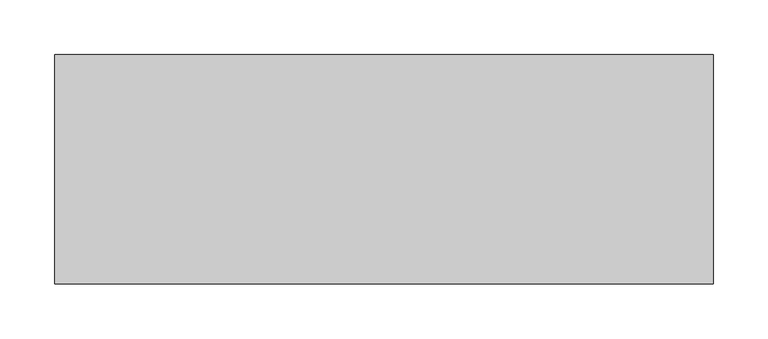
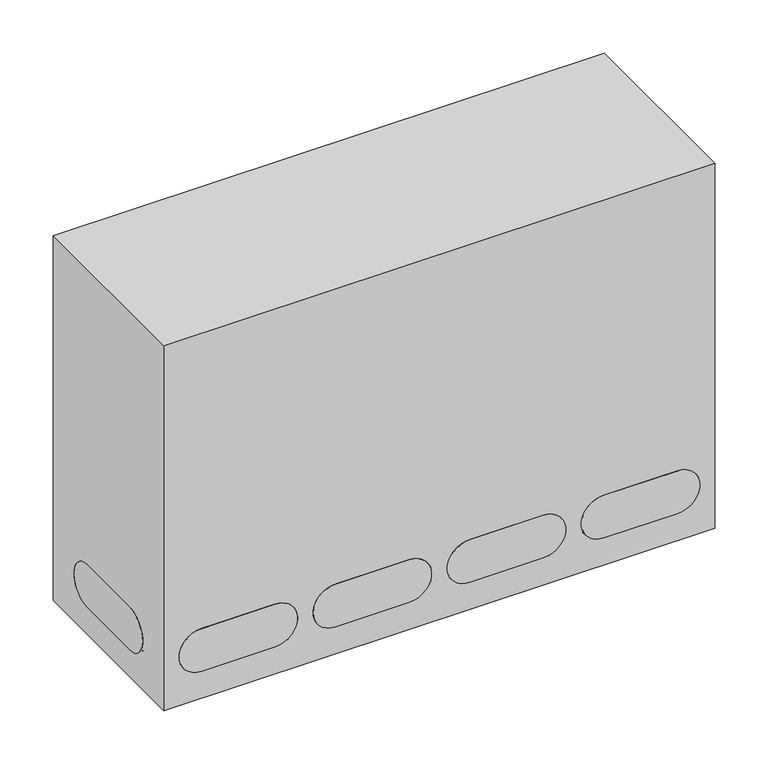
"""IFC4 building model written with IfcOpenShell, lengths in millimetres: duct fitting geometry, NLRS_57_DUF_UN_air distribution manifold oval #14_M&G : 350#14 XL - DN150 (H=420)."""

from ifc_helpers import new_model, si_unit, point, frame, frame_2d, origin, origin_with_axes, place, context, project, spatial, polyline, circle_curve, trimmed, segment, composite_curve, outline, extrude, source, transform, mapped, element, save
from ifc_brep_helpers import plane_surface, revolved_surface, advanced_brep


def duct_fitting_69f5a1d6(model_context):
    return source(origin(), model_context, "Body", "SolidModel", [
        extrude(outline(composite_curve([segment(trimmed(circle_curve(frame_2d((-179.0, 40.0)), 24.5), [point((-179.0, 64.5))], [point((-179.0, 15.5))], False, "CARTESIAN"), True, "CONTINUOUS"), segment(polyline([(-179.0, 15.5), (-259.0, 15.5)]), True, "CONTINUOUS"), segment(trimmed(circle_curve(frame_2d((-259.0, 40.0)), 24.5), [point((-259.0, 15.5))], [point((-259.0, 64.5))], False, "CARTESIAN"), True, "CONTINUOUS"), segment(polyline([(-259.0, 64.5), (-179.0, 64.5)]), True, "CONTINUOUS")], self_intersect=False)), origin_with_axes(), (0.0, 0.0, 1.0), 5.0),
        extrude(outline(composite_curve([segment(trimmed(circle_curve(frame_2d((-179.0, -40.0)), 24.5), [point((-179.0, -15.5))], [point((-179.0, -64.5))], False, "CARTESIAN"), True, "CONTINUOUS"), segment(polyline([(-179.0, -64.5), (-259.0, -64.5)]), True, "CONTINUOUS"), segment(trimmed(circle_curve(frame_2d((-259.0, -40.0)), 24.5), [point((-259.0, -64.5))], [point((-259.0, -15.5))], False, "CARTESIAN"), True, "CONTINUOUS"), segment(polyline([(-259.0, -15.5), (-179.0, -15.5)]), True, "CONTINUOUS")], self_intersect=False)), origin_with_axes(), (0.0, 0.0, 1.0), 5.0),
        extrude(outline(composite_curve([segment(trimmed(circle_curve(frame_2d((-33.0, 40.0)), 24.5), [point((-33.0, 64.5))], [point((-33.0, 15.5))], False, "CARTESIAN"), True, "CONTINUOUS"), segment(polyline([(-33.0, 15.5), (-113.0, 15.5)]), True, "CONTINUOUS"), segment(trimmed(circle_curve(frame_2d((-113.0, 40.0)), 24.5), [point((-113.0, 15.5))], [point((-113.0, 64.5))], False, "CARTESIAN"), True, "CONTINUOUS"), segment(polyline([(-113.0, 64.5), (-33.0, 64.5)]), True, "CONTINUOUS")], self_intersect=False)), origin_with_axes(), (0.0, 0.0, 1.0), 5.0),
        extrude(outline(composite_curve([segment(trimmed(circle_curve(frame_2d((-33.0, -40.0)), 24.5), [point((-33.0, -15.5))], [point((-33.0, -64.5))], False, "CARTESIAN"), True, "CONTINUOUS"), segment(polyline([(-33.0, -64.5), (-113.0, -64.5)]), True, "CONTINUOUS"), segment(trimmed(circle_curve(frame_2d((-113.0, -40.0)), 24.5), [point((-113.0, -64.5))], [point((-113.0, -15.5))], False, "CARTESIAN"), True, "CONTINUOUS"), segment(polyline([(-113.0, -15.5), (-33.0, -15.5)]), True, "CONTINUOUS")], self_intersect=False)), origin_with_axes(), (0.0, 0.0, 1.0), 5.0),
        extrude(outline(composite_curve([segment(trimmed(circle_curve(frame_2d((113.0, 40.0)), 24.5), [point((113.0, 64.5))], [point((113.0, 15.5))], False, "CARTESIAN"), True, "CONTINUOUS"), segment(polyline([(113.0, 15.5), (33.0, 15.5)]), True, "CONTINUOUS"), segment(trimmed(circle_curve(frame_2d((33.0, 40.0)), 24.5), [point((33.0, 15.5))], [point((33.0, 64.5))], False, "CARTESIAN"), True, "CONTINUOUS"), segment(polyline([(33.0, 64.5), (113.0, 64.5)]), True, "CONTINUOUS")], self_intersect=False)), origin_with_axes(), (0.0, 0.0, 1.0), 5.0),
        extrude(outline(composite_curve([segment(trimmed(circle_curve(frame_2d((113.0, -40.0)), 24.5), [point((113.0, -15.5))], [point((113.0, -64.5))], False, "CARTESIAN"), True, "CONTINUOUS"), segment(polyline([(113.0, -64.5), (33.0, -64.5)]), True, "CONTINUOUS"), segment(trimmed(circle_curve(frame_2d((33.0, -40.0)), 24.5), [point((33.0, -64.5))], [point((33.0, -15.5))], False, "CARTESIAN"), True, "CONTINUOUS"), segment(polyline([(33.0, -15.5), (113.0, -15.5)]), True, "CONTINUOUS")], self_intersect=False)), origin_with_axes(), (0.0, 0.0, 1.0), 5.0),
        extrude(outline(composite_curve([segment(trimmed(circle_curve(frame_2d((259.0, 40.0)), 24.5), [point((259.0, 64.5))], [point((259.0, 15.5))], False, "CARTESIAN"), True, "CONTINUOUS"), segment(polyline([(259.0, 15.5), (179.0, 15.5)]), True, "CONTINUOUS"), segment(trimmed(circle_curve(frame_2d((179.0, 40.0)), 24.5), [point((179.0, 15.5))], [point((179.0, 64.5))], False, "CARTESIAN"), True, "CONTINUOUS"), segment(polyline([(179.0, 64.5), (259.0, 64.5)]), True, "CONTINUOUS")], self_intersect=False)), origin_with_axes(), (0.0, 0.0, 1.0), 5.0),
        extrude(outline(composite_curve([segment(trimmed(circle_curve(frame_2d((259.0, -40.0)), 24.5), [point((259.0, -15.5))], [point((259.0, -64.5))], False, "CARTESIAN"), True, "CONTINUOUS"), segment(polyline([(259.0, -64.5), (179.0, -64.5)]), True, "CONTINUOUS"), segment(trimmed(circle_curve(frame_2d((179.0, -40.0)), 24.5), [point((179.0, -64.5))], [point((179.0, -15.5))], False, "CARTESIAN"), True, "CONTINUOUS"), segment(polyline([(179.0, -15.5), (259.0, -15.5)]), True, "CONTINUOUS")], self_intersect=False)), origin_with_axes(), (0.0, 0.0, 1.0), 5.0),
        extrude(outline(composite_curve([segment(polyline([(-40.0, 80.0), (40.0, 80.0)]), True, "CONTINUOUS"), segment(trimmed(circle_curve(frame_2d((40.0, 55.5)), 24.5), [point((40.0, 80.0))], [point((40.0, 31.0))], False, "CARTESIAN"), True, "CONTINUOUS"), segment(polyline([(40.0, 31.0), (-40.0, 31.0)]), True, "CONTINUOUS"), segment(trimmed(circle_curve(frame_2d((-40.0, 55.5)), 24.5), [point((-40.0, 31.0))], [point((-40.0, 80.0))], False, "CARTESIAN"), True, "CONTINUOUS")], self_intersect=False)), frame((-300.0, 0.0, 0.0), z_axis=(1.0, 0.0, 0.0), x_axis=(0.0, 1.0, 0.0)), (0.0, 0.0, 1.0), 5.0),
        extrude(outline(composite_curve([segment(polyline([(80.0, -179.0), (80.0, -259.0)]), True, "CONTINUOUS"), segment(trimmed(circle_curve(frame_2d((55.5, -259.0)), 24.5), [point((80.0, -259.0))], [point((31.0, -259.0))], False, "CARTESIAN"), True, "CONTINUOUS"), segment(polyline([(31.0, -259.0), (31.0, -179.0)]), True, "CONTINUOUS"), segment(trimmed(circle_curve(frame_2d((55.5, -179.0)), 24.5), [point((31.0, -179.0))], [point((80.0, -179.0))], False, "CARTESIAN"), True, "CONTINUOUS")], self_intersect=False)), frame((0.0, -104.5, 0.0), z_axis=(0.0, 1.0, 0.0), x_axis=(0.0, 0.0, 1.0)), (0.0, 0.0, 1.0), 5.0),
        extrude(outline(composite_curve([segment(polyline([(80.0, -33.0), (80.0, -113.0)]), True, "CONTINUOUS"), segment(trimmed(circle_curve(frame_2d((55.5, -113.0)), 24.5), [point((80.0, -113.0))], [point((31.0, -113.0))], False, "CARTESIAN"), True, "CONTINUOUS"), segment(polyline([(31.0, -113.0), (31.0, -33.0)]), True, "CONTINUOUS"), segment(trimmed(circle_curve(frame_2d((55.5, -33.0)), 24.5), [point((31.0, -33.0))], [point((80.0, -33.0))], False, "CARTESIAN"), True, "CONTINUOUS")], self_intersect=False)), frame((0.0, -104.5, 0.0), z_axis=(0.0, 1.0, 0.0), x_axis=(0.0, 0.0, 1.0)), (0.0, 0.0, 1.0), 5.0),
        extrude(outline(composite_curve([segment(polyline([(80.0, 113.0), (80.0, 33.0)]), True, "CONTINUOUS"), segment(trimmed(circle_curve(frame_2d((55.5, 33.0)), 24.5), [point((80.0, 33.0))], [point((31.0, 33.0))], False, "CARTESIAN"), True, "CONTINUOUS"), segment(polyline([(31.0, 33.0), (31.0, 113.0)]), True, "CONTINUOUS"), segment(trimmed(circle_curve(frame_2d((55.5, 113.0)), 24.5), [point((31.0, 113.0))], [point((80.0, 113.0))], False, "CARTESIAN"), True, "CONTINUOUS")], self_intersect=False)), frame((0.0, -104.5, 0.0), z_axis=(0.0, 1.0, 0.0), x_axis=(0.0, 0.0, 1.0)), (0.0, 0.0, 1.0), 5.0),
        extrude(outline(composite_curve([segment(polyline([(80.0, 259.0), (80.0, 179.0)]), True, "CONTINUOUS"), segment(trimmed(circle_curve(frame_2d((55.5, 179.0)), 24.5), [point((80.0, 179.0))], [point((31.0, 179.0))], False, "CARTESIAN"), True, "CONTINUOUS"), segment(polyline([(31.0, 179.0), (31.0, 259.0)]), True, "CONTINUOUS"), segment(trimmed(circle_curve(frame_2d((55.5, 259.0)), 24.5), [point((31.0, 259.0))], [point((80.0, 259.0))], False, "CARTESIAN"), True, "CONTINUOUS")], self_intersect=False)), frame((0.0, -104.5, 0.0), z_axis=(0.0, 1.0, 0.0), x_axis=(0.0, 0.0, 1.0)), (0.0, 0.0, 1.0), 5.0),
        extrude(outline(composite_curve([segment(polyline([(-40.0, 80.0), (40.0, 80.0)]), True, "CONTINUOUS"), segment(trimmed(circle_curve(frame_2d((40.0, 55.5)), 24.5), [point((40.0, 80.0))], [point((40.0, 31.0))], False, "CARTESIAN"), True, "CONTINUOUS"), segment(polyline([(40.0, 31.0), (-40.0, 31.0)]), True, "CONTINUOUS"), segment(trimmed(circle_curve(frame_2d((-40.0, 55.5)), 24.5), [point((-40.0, 31.0))], [point((-40.0, 80.0))], False, "CARTESIAN"), True, "CONTINUOUS")], self_intersect=False)), frame((295.0, 0.0, 0.0), z_axis=(1.0, 0.0, 0.0), x_axis=(0.0, 1.0, 0.0)), (0.0, 0.0, 1.0), 5.0),
        advanced_brep(
        [(300.0, 104.5, 420.0), (-300.0, 104.5, 420.0), (-300.0, -104.5, 420.0), (300.0, -104.5, 420.0), (300.0, 104.5, 0.0), (300.0, -104.5, 0.0), (-300.0, -104.5, 0.0), (-300.0, 104.5, 0.0), (-179.0, 64.5, 0.0), (-259.0, 64.5, 0.0), (-259.0, 15.5, 0.0), (-179.0, 15.5, 0.0), (-179.0, -15.5, 0.0), (-259.0, -15.5, 0.0), (-259.0, -64.5, 0.0), (-179.0, -64.5, 0.0), (-33.0, 64.5, 0.0), (-113.0, 64.5, 0.0), (-113.0, 15.5, 0.0), (-33.0, 15.5, 0.0), (-33.0, -15.5, 0.0), (-113.0, -15.5, 0.0), (-113.0, -64.5, 0.0), (-33.0, -64.5, 0.0), (113.0, 64.5, 0.0), (33.0, 64.5, 0.0), (33.0, 15.5, 0.0), (113.0, 15.5, 0.0), (113.0, -15.5, 0.0), (33.0, -15.5, 0.0), (33.0, -64.5, 0.0), (113.0, -64.5, 0.0), (259.0, 64.5, 0.0), (179.0, 64.5, 0.0), (179.0, 15.5, 0.0), (259.0, 15.5, 0.0), (259.0, -15.5, 0.0), (179.0, -15.5, 0.0), (179.0, -64.5, 0.0), (259.0, -64.5, 0.0), (-300.0, 40.0, 80.0), (-300.0, -40.0, 80.0), (-300.0, -40.0, 31.0), (-300.0, 40.0, 31.0), (-259.0, -104.5, 80.0), (-179.0, -104.5, 80.0), (-179.0, -104.5, 31.0), (-259.0, -104.5, 31.0), (-113.0, -104.5, 80.0), (-33.0, -104.5, 80.0), (-33.0, -104.5, 31.0), (-113.0, -104.5, 31.0), (33.0, -104.5, 80.0), (113.0, -104.5, 80.0), (113.0, -104.5, 31.0), (33.0, -104.5, 31.0), (179.0, -104.5, 80.0), (259.0, -104.5, 80.0), (259.0, -104.5, 31.0), (179.0, -104.5, 31.0), (300.0, -40.0, 80.0), (300.0, 40.0, 80.0), (300.0, 40.0, 31.0), (300.0, -40.0, 31.0), (-179.0, 64.5, 5.0), (-179.0, 15.5, 5.0), (-259.0, 15.5, 5.0), (-259.0, 64.5, 5.0), (-179.0, -15.5, 5.0), (-179.0, -64.5, 5.0), (-259.0, -64.5, 5.0), (-259.0, -15.5, 5.0), (-33.0, 64.5, 5.0), (-33.0, 15.5, 5.0), (-113.0, 15.5, 5.0), (-113.0, 64.5, 5.0), (-33.0, -15.5, 5.0), (-33.0, -64.5, 5.0), (-113.0, -64.5, 5.0), (-113.0, -15.5, 5.0), (113.0, 64.5, 5.0), (113.0, 15.5, 5.0), (33.0, 15.5, 5.0), (33.0, 64.5, 5.0), (113.0, -15.5, 5.0), (113.0, -64.5, 5.0), (33.0, -64.5, 5.0), (33.0, -15.5, 5.0), (259.0, 64.5, 5.0), (259.0, 15.5, 5.0), (179.0, 15.5, 5.0), (179.0, 64.5, 5.0), (259.0, -15.5, 5.0), (259.0, -64.5, 5.0), (179.0, -64.5, 5.0), (179.0, -15.5, 5.0), (-179.0, -99.5, 80.0), (-259.0, -99.5, 80.0), (-259.0, -99.5, 31.0), (-179.0, -99.5, 31.0), (-33.0, -99.5, 80.0), (-113.0, -99.5, 80.0), (-113.0, -99.5, 31.0), (-33.0, -99.5, 31.0), (113.0, -99.5, 80.0), (33.0, -99.5, 80.0), (33.0, -99.5, 31.0), (113.0, -99.5, 31.0), (259.0, -99.5, 80.0), (179.0, -99.5, 80.0), (179.0, -99.5, 31.0), (259.0, -99.5, 31.0), (294.0, -40.0, 80.0), (294.0, -40.0, 31.0), (294.0, 40.0, 31.0), (294.0, 40.0, 80.0), (-294.0, -40.0, 80.0), (-294.0, 40.0, 80.0), (-294.0, 40.0, 31.0), (-294.0, -40.0, 31.0)],
        [
            (0, 1),
            (1, 2),
            (2, 3),
            (3, 0),
            (4, 5),
            (5, 6),
            (6, 7),
            (7, 4),
            (8, 9),
            (9, 10, circle_curve(frame((-259.0, 40.0, 0.0), z_axis=(0.0, 0.0, 1.0), x_axis=(1.0, 0.0, 0.0)), 24.5)),
            (10, 11),
            (11, 8, circle_curve(frame((-179.0, 40.0, 0.0), z_axis=(0.0, 0.0, 1.0), x_axis=(1.0, 0.0, 0.0)), 24.5)),
            (12, 13),
            (13, 14, circle_curve(frame((-259.0, -40.0, 0.0), z_axis=(0.0, 0.0, 1.0), x_axis=(1.0, 0.0, 0.0)), 24.5)),
            (14, 15),
            (15, 12, circle_curve(frame((-179.0, -40.0, 0.0), z_axis=(0.0, 0.0, 1.0), x_axis=(1.0, 0.0, 0.0)), 24.5)),
            (16, 17),
            (17, 18, circle_curve(frame((-113.0, 40.0, 0.0), z_axis=(0.0, 0.0, 1.0), x_axis=(1.0, 0.0, 0.0)), 24.5)),
            (18, 19),
            (19, 16, circle_curve(frame((-33.0, 40.0, 0.0), z_axis=(0.0, 0.0, 1.0), x_axis=(1.0, 0.0, 0.0)), 24.5)),
            (20, 21),
            (21, 22, circle_curve(frame((-113.0, -40.0, 0.0), z_axis=(0.0, 0.0, 1.0), x_axis=(1.0, 0.0, 0.0)), 24.5)),
            (22, 23),
            (23, 20, circle_curve(frame((-33.0, -40.0, 0.0), z_axis=(0.0, 0.0, 1.0), x_axis=(1.0, 0.0, 0.0)), 24.5)),
            (24, 25),
            (25, 26, circle_curve(frame((33.0, 40.0, 0.0), z_axis=(0.0, 0.0, 1.0), x_axis=(1.0, 0.0, 0.0)), 24.5)),
            (26, 27),
            (27, 24, circle_curve(frame((113.0, 40.0, 0.0), z_axis=(0.0, 0.0, 1.0), x_axis=(1.0, 0.0, 0.0)), 24.5)),
            (28, 29),
            (29, 30, circle_curve(frame((33.0, -40.0, 0.0), z_axis=(0.0, 0.0, 1.0), x_axis=(1.0, 0.0, 0.0)), 24.5)),
            (30, 31),
            (31, 28, circle_curve(frame((113.0, -40.0, 0.0), z_axis=(0.0, 0.0, 1.0), x_axis=(1.0, 0.0, 0.0)), 24.5)),
            (32, 33),
            (33, 34, circle_curve(frame((179.0, 40.0, 0.0), z_axis=(0.0, 0.0, 1.0), x_axis=(1.0, 0.0, 0.0)), 24.5)),
            (34, 35),
            (35, 32, circle_curve(frame((259.0, 40.0, 0.0), z_axis=(0.0, 0.0, 1.0), x_axis=(1.0, 0.0, 0.0)), 24.5)),
            (36, 37),
            (37, 38, circle_curve(frame((179.0, -40.0, 0.0), z_axis=(0.0, 0.0, 1.0), x_axis=(1.0, 0.0, 0.0)), 24.5)),
            (38, 39),
            (39, 36, circle_curve(frame((259.0, -40.0, 0.0), z_axis=(0.0, 0.0, 1.0), x_axis=(1.0, 0.0, 0.0)), 24.5)),
            (0, 4),
            (7, 1),
            (6, 2),
            (40, 41),
            (41, 42, circle_curve(frame((-300.0, -40.0, 55.5), z_axis=(1.0, 0.0, 0.0), x_axis=(0.0, 1.0, 0.0)), 24.5)),
            (42, 43),
            (43, 40, circle_curve(frame((-300.0, 40.0, 55.5), z_axis=(1.0, 0.0, 0.0), x_axis=(0.0, 1.0, 0.0)), 24.5)),
            (5, 3),
            (44, 45),
            (45, 46, circle_curve(frame((-179.0, -104.5, 55.5), z_axis=(0.0, 1.0, 0.0), x_axis=(-1.0, 0.0, 0.0)), 24.5)),
            (46, 47),
            (47, 44, circle_curve(frame((-259.0, -104.5, 55.5), z_axis=(0.0, 1.0, 0.0), x_axis=(-1.0, 0.0, 0.0)), 24.5)),
            (48, 49),
            (49, 50, circle_curve(frame((-33.0, -104.5, 55.5), z_axis=(0.0, 1.0, 0.0), x_axis=(-1.0, 0.0, 0.0)), 24.5)),
            (50, 51),
            (51, 48, circle_curve(frame((-113.0, -104.5, 55.5), z_axis=(0.0, 1.0, 0.0), x_axis=(-1.0, 0.0, 0.0)), 24.5)),
            (52, 53),
            (53, 54, circle_curve(frame((113.0, -104.5, 55.5), z_axis=(0.0, 1.0, 0.0), x_axis=(-1.0, 0.0, 0.0)), 24.5)),
            (54, 55),
            (55, 52, circle_curve(frame((33.0, -104.5, 55.5), z_axis=(0.0, 1.0, 0.0), x_axis=(-1.0, 0.0, 0.0)), 24.5)),
            (56, 57),
            (57, 58, circle_curve(frame((259.0, -104.5, 55.5), z_axis=(0.0, 1.0, 0.0), x_axis=(-1.0, 0.0, 0.0)), 24.5)),
            (58, 59),
            (59, 56, circle_curve(frame((179.0, -104.5, 55.5), z_axis=(0.0, 1.0, 0.0), x_axis=(-1.0, 0.0, 0.0)), 24.5)),
            (60, 61),
            (61, 62, circle_curve(frame((300.0, 40.0, 55.5), z_axis=(-1.0, 0.0, 0.0), x_axis=(0.0, -1.0, 0.0)), 24.5)),
            (62, 63),
            (63, 60, circle_curve(frame((300.0, -40.0, 55.5), z_axis=(-1.0, 0.0, 0.0), x_axis=(0.0, -1.0, 0.0)), 24.5)),
            (64, 65, circle_curve(frame((-179.0, 40.0, 5.0), z_axis=(0.0, 0.0, -1.0), x_axis=(1.0, 0.0, 0.0)), 24.5)),
            (65, 66),
            (66, 67, circle_curve(frame((-259.0, 40.0, 5.0), z_axis=(0.0, 0.0, -1.0), x_axis=(1.0, 0.0, 0.0)), 24.5)),
            (67, 64),
            (68, 69, circle_curve(frame((-179.0, -40.0, 5.0), z_axis=(0.0, 0.0, -1.0), x_axis=(1.0, 0.0, 0.0)), 24.5)),
            (69, 70),
            (70, 71, circle_curve(frame((-259.0, -40.0, 5.0), z_axis=(0.0, 0.0, -1.0), x_axis=(1.0, 0.0, 0.0)), 24.5)),
            (71, 68),
            (72, 73, circle_curve(frame((-33.0, 40.0, 5.0), z_axis=(0.0, 0.0, -1.0), x_axis=(1.0, 0.0, 0.0)), 24.5)),
            (73, 74),
            (74, 75, circle_curve(frame((-113.0, 40.0, 5.0), z_axis=(0.0, 0.0, -1.0), x_axis=(1.0, 0.0, 0.0)), 24.5)),
            (75, 72),
            (76, 77, circle_curve(frame((-33.0, -40.0, 5.0), z_axis=(0.0, 0.0, -1.0), x_axis=(1.0, 0.0, 0.0)), 24.5)),
            (77, 78),
            (78, 79, circle_curve(frame((-113.0, -40.0, 5.0), z_axis=(0.0, 0.0, -1.0), x_axis=(1.0, 0.0, 0.0)), 24.5)),
            (79, 76),
            (80, 81, circle_curve(frame((113.0, 40.0, 5.0), z_axis=(0.0, 0.0, -1.0), x_axis=(1.0, 0.0, 0.0)), 24.5)),
            (81, 82),
            (82, 83, circle_curve(frame((33.0, 40.0, 5.0), z_axis=(0.0, 0.0, -1.0), x_axis=(1.0, 0.0, 0.0)), 24.5)),
            (83, 80),
            (84, 85, circle_curve(frame((113.0, -40.0, 5.0), z_axis=(0.0, 0.0, -1.0), x_axis=(1.0, 0.0, 0.0)), 24.5)),
            (85, 86),
            (86, 87, circle_curve(frame((33.0, -40.0, 5.0), z_axis=(0.0, 0.0, -1.0), x_axis=(1.0, 0.0, 0.0)), 24.5)),
            (87, 84),
            (88, 89, circle_curve(frame((259.0, 40.0, 5.0), z_axis=(0.0, 0.0, -1.0), x_axis=(1.0, 0.0, 0.0)), 24.5)),
            (89, 90),
            (90, 91, circle_curve(frame((179.0, 40.0, 5.0), z_axis=(0.0, 0.0, -1.0), x_axis=(1.0, 0.0, 0.0)), 24.5)),
            (91, 88),
            (92, 93, circle_curve(frame((259.0, -40.0, 5.0), z_axis=(0.0, 0.0, -1.0), x_axis=(1.0, 0.0, 0.0)), 24.5)),
            (93, 94),
            (94, 95, circle_curve(frame((179.0, -40.0, 5.0), z_axis=(0.0, 0.0, -1.0), x_axis=(1.0, 0.0, 0.0)), 24.5)),
            (95, 92),
            (67, 9),
            (8, 64),
            (66, 10),
            (65, 11),
            (71, 13),
            (12, 68),
            (70, 14),
            (69, 15),
            (75, 17),
            (16, 72),
            (74, 18),
            (73, 19),
            (79, 21),
            (20, 76),
            (78, 22),
            (77, 23),
            (83, 25),
            (24, 80),
            (82, 26),
            (81, 27),
            (87, 29),
            (28, 84),
            (86, 30),
            (85, 31),
            (91, 33),
            (32, 88),
            (90, 34),
            (89, 35),
            (95, 37),
            (36, 92),
            (94, 38),
            (93, 39),
            (96, 97),
            (97, 98, circle_curve(frame((-259.0, -99.5, 55.5), z_axis=(0.0, -1.0, 0.0), x_axis=(-1.0, 0.0, 0.0)), 24.5)),
            (98, 99),
            (99, 96, circle_curve(frame((-179.0, -99.5, 55.5), z_axis=(0.0, -1.0, 0.0), x_axis=(-1.0, 0.0, 0.0)), 24.5)),
            (100, 101),
            (101, 102, circle_curve(frame((-113.0, -99.5, 55.5), z_axis=(0.0, -1.0, 0.0), x_axis=(-1.0, 0.0, 0.0)), 24.5)),
            (102, 103),
            (103, 100, circle_curve(frame((-33.0, -99.5, 55.5), z_axis=(0.0, -1.0, 0.0), x_axis=(-1.0, 0.0, 0.0)), 24.5)),
            (104, 105),
            (105, 106, circle_curve(frame((33.0, -99.5, 55.5), z_axis=(0.0, -1.0, 0.0), x_axis=(-1.0, 0.0, 0.0)), 24.5)),
            (106, 107),
            (107, 104, circle_curve(frame((113.0, -99.5, 55.5), z_axis=(0.0, -1.0, 0.0), x_axis=(-1.0, 0.0, 0.0)), 24.5)),
            (108, 109),
            (109, 110, circle_curve(frame((179.0, -99.5, 55.5), z_axis=(0.0, -1.0, 0.0), x_axis=(-1.0, 0.0, 0.0)), 24.5)),
            (110, 111),
            (111, 108, circle_curve(frame((259.0, -99.5, 55.5), z_axis=(0.0, -1.0, 0.0), x_axis=(-1.0, 0.0, 0.0)), 24.5)),
            (96, 45),
            (44, 97),
            (47, 98),
            (46, 99),
            (100, 49),
            (48, 101),
            (51, 102),
            (50, 103),
            (104, 53),
            (52, 105),
            (55, 106),
            (54, 107),
            (108, 57),
            (56, 109),
            (59, 110),
            (58, 111),
            (112, 113, circle_curve(frame((294.0, -40.0, 55.5), z_axis=(1.0, 0.0, 0.0), x_axis=(0.0, -1.0, 0.0)), 24.5)),
            (113, 114),
            (114, 115, circle_curve(frame((294.0, 40.0, 55.5), z_axis=(1.0, 0.0, 0.0), x_axis=(0.0, -1.0, 0.0)), 24.5)),
            (115, 112),
            (115, 61),
            (60, 112),
            (114, 62),
            (113, 63),
            (116, 117),
            (117, 118, circle_curve(frame((-294.0, 40.0, 55.5), z_axis=(-1.0, 0.0, 0.0), x_axis=(0.0, 1.0, 0.0)), 24.5)),
            (118, 119),
            (119, 116, circle_curve(frame((-294.0, -40.0, 55.5), z_axis=(-1.0, 0.0, 0.0), x_axis=(0.0, 1.0, 0.0)), 24.5)),
            (116, 41),
            (40, 117),
            (43, 118),
            (42, 119),
        ],
        [
            plane_surface(frame((-300.0, 104.5, 420.0), z_axis=(0.0, 0.0, 1.0), x_axis=(-1.0, 0.0, 0.0))),
            plane_surface(frame((-300.0, 104.5, 0.0), z_axis=(0.0, 0.0, -1.0), x_axis=(1.0, 0.0, 0.0))),
            plane_surface(frame((300.0, 104.5, 420.0), z_axis=(0.0, 1.0, 0.0), x_axis=(0.0, 0.0, -1.0))),
            plane_surface(frame((-300.0, 104.5, 420.0), z_axis=(-1.0, 0.0, 0.0), x_axis=(0.0, 0.0, -1.0))),
            plane_surface(frame((-300.0, -104.5, 420.0), z_axis=(0.0, -1.0, 0.0), x_axis=(0.0, 0.0, -1.0))),
            plane_surface(frame((300.0, -104.5, 420.0), z_axis=(1.0, 0.0, 0.0), x_axis=(0.0, 0.0, -1.0))),
            plane_surface(frame((-259.0, 64.5, 5.0), z_axis=(0.0, 0.0, -1.0), x_axis=(-1.0, 0.0, 0.0))),
            plane_surface(frame((-179.0, 64.5, 5.0), z_axis=(0.0, -1.0, 0.0), x_axis=(0.0, 0.0, -1.0))),
            revolved_surface(polyline([(-234.5, 40.0, 5.0), (-234.5, 40.0, 0.0)]), (-259.0, 40.0, 0.0), (0.0, 0.0, 1.0)),
            plane_surface(frame((-259.0, 15.5, 5.0), z_axis=(0.0, 1.0, 0.0), x_axis=(0.0, 0.0, -1.0))),
            revolved_surface(polyline([(-154.5, 40.0, 5.0), (-154.5, 40.0, 0.0)]), (-179.0, 40.0, 0.0), (0.0, 0.0, 1.0)),
            plane_surface(frame((-179.0, -15.5, 5.0), z_axis=(0.0, -1.0, 0.0), x_axis=(0.0, 0.0, -1.0))),
            revolved_surface(polyline([(-234.5, -40.0, 5.0), (-234.5, -40.0, 0.0)]), (-259.0, -40.0, 0.0), (0.0, 0.0, 1.0)),
            plane_surface(frame((-259.0, -64.5, 5.0), z_axis=(0.0, 1.0, 0.0), x_axis=(0.0, 0.0, -1.0))),
            revolved_surface(polyline([(-154.5, -40.0, 5.0), (-154.5, -40.0, 0.0)]), (-179.0, -40.0, 0.0), (0.0, 0.0, 1.0)),
            plane_surface(frame((-33.0, 64.5, 5.0), z_axis=(0.0, -1.0, 0.0), x_axis=(0.0, 0.0, -1.0))),
            revolved_surface(polyline([(-88.5, 40.0, 5.0), (-88.5, 40.0, 0.0)]), (-113.0, 40.0, 0.0), (0.0, 0.0, 1.0)),
            plane_surface(frame((-113.0, 15.5, 5.0), z_axis=(0.0, 1.0, 0.0), x_axis=(0.0, 0.0, -1.0))),
            revolved_surface(polyline([(-8.5, 40.0, 5.0), (-8.5, 40.0, 0.0)]), (-33.0, 40.0, 0.0), (0.0, 0.0, 1.0)),
            plane_surface(frame((-33.0, -15.5, 5.0), z_axis=(0.0, -1.0, 0.0), x_axis=(0.0, 0.0, -1.0))),
            revolved_surface(polyline([(-88.5, -40.0, 5.0), (-88.5, -40.0, 0.0)]), (-113.0, -40.0, 0.0), (0.0, 0.0, 1.0)),
            plane_surface(frame((-113.0, -64.5, 5.0), z_axis=(0.0, 1.0, 0.0), x_axis=(0.0, 0.0, -1.0))),
            revolved_surface(polyline([(-8.5, -40.0, 5.0), (-8.5, -40.0, 0.0)]), (-33.0, -40.0, 0.0), (0.0, 0.0, 1.0)),
            plane_surface(frame((113.0, 64.5, 5.0), z_axis=(0.0, -1.0, 0.0), x_axis=(0.0, 0.0, -1.0))),
            revolved_surface(polyline([(57.5, 40.0, 5.0), (57.5, 40.0, 0.0)]), (33.0, 40.0, 0.0), (0.0, 0.0, 1.0)),
            plane_surface(frame((33.0, 15.5, 5.0), z_axis=(0.0, 1.0, 0.0), x_axis=(0.0, 0.0, -1.0))),
            revolved_surface(polyline([(137.5, 40.0, 5.0), (137.5, 40.0, 0.0)]), (113.0, 40.0, 0.0), (0.0, 0.0, 1.0)),
            plane_surface(frame((113.0, -15.5, 5.0), z_axis=(0.0, -1.0, 0.0), x_axis=(0.0, 0.0, -1.0))),
            revolved_surface(polyline([(57.5, -40.0, 5.0), (57.5, -40.0, 0.0)]), (33.0, -40.0, 0.0), (0.0, 0.0, 1.0)),
            plane_surface(frame((33.0, -64.5, 5.0), z_axis=(0.0, 1.0, 0.0), x_axis=(0.0, 0.0, -1.0))),
            revolved_surface(polyline([(137.5, -40.0, 5.0), (137.5, -40.0, 0.0)]), (113.0, -40.0, 0.0), (0.0, 0.0, 1.0)),
            plane_surface(frame((259.0, 64.5, 5.0), z_axis=(0.0, -1.0, 0.0), x_axis=(0.0, 0.0, -1.0))),
            revolved_surface(polyline([(203.5, 40.0, 5.0), (203.5, 40.0, 0.0)]), (179.0, 40.0, 0.0), (0.0, 0.0, 1.0)),
            plane_surface(frame((179.0, 15.5, 5.0), z_axis=(0.0, 1.0, 0.0), x_axis=(0.0, 0.0, -1.0))),
            revolved_surface(polyline([(283.5, 40.0, 5.0), (283.5, 40.0, 0.0)]), (259.0, 40.0, 0.0), (0.0, 0.0, 1.0)),
            plane_surface(frame((259.0, -15.5, 5.0), z_axis=(0.0, -1.0, 0.0), x_axis=(0.0, 0.0, -1.0))),
            revolved_surface(polyline([(203.5, -40.0, 5.0), (203.5, -40.0, 0.0)]), (179.0, -40.0, 0.0), (0.0, 0.0, 1.0)),
            plane_surface(frame((179.0, -64.5, 5.0), z_axis=(0.0, 1.0, 0.0), x_axis=(0.0, 0.0, -1.0))),
            revolved_surface(polyline([(283.5, -40.0, 5.0), (283.5, -40.0, 0.0)]), (259.0, -40.0, 0.0), (0.0, 0.0, 1.0)),
            plane_surface(frame((-203.5, -99.5, 55.5), z_axis=(0.0, -1.0, 0.0), x_axis=(0.0, 0.0, 1.0))),
            plane_surface(frame((-259.0, -99.5, 80.0), z_axis=(0.0, 0.0, -1.0), x_axis=(0.0, -1.0, 0.0))),
            revolved_surface(polyline([(-283.5, -99.5, 55.5), (-283.5, -104.5, 55.5)]), (-259.0, -104.5, 55.5), (0.0, 1.0, 0.0)),
            plane_surface(frame((-179.0, -99.5, 31.0), z_axis=(0.0, 0.0, 1.0), x_axis=(0.0, -1.0, 0.0))),
            revolved_surface(polyline([(-203.5, -99.5, 55.5), (-203.5, -104.5, 55.5)]), (-179.0, -104.5, 55.5), (0.0, 1.0, 0.0)),
            plane_surface(frame((-113.0, -99.5, 80.0), z_axis=(0.0, 0.0, -1.0), x_axis=(0.0, -1.0, 0.0))),
            revolved_surface(polyline([(-137.5, -99.5, 55.5), (-137.5, -104.5, 55.5)]), (-113.0, -104.5, 55.5), (0.0, 1.0, 0.0)),
            plane_surface(frame((-33.0, -99.5, 31.0), z_axis=(0.0, 0.0, 1.0), x_axis=(0.0, -1.0, 0.0))),
            revolved_surface(polyline([(-57.5, -99.5, 55.5), (-57.5, -104.5, 55.5)]), (-33.0, -104.5, 55.5), (0.0, 1.0, 0.0)),
            plane_surface(frame((33.0, -99.5, 80.0), z_axis=(0.0, 0.0, -1.0), x_axis=(0.0, -1.0, 0.0))),
            revolved_surface(polyline([(8.5, -99.5, 55.5), (8.5, -104.5, 55.5)]), (33.0, -104.5, 55.5), (0.0, 1.0, 0.0)),
            plane_surface(frame((113.0, -99.5, 31.0), z_axis=(0.0, 0.0, 1.0), x_axis=(0.0, -1.0, 0.0))),
            revolved_surface(polyline([(88.5, -99.5, 55.5), (88.5, -104.5, 55.5)]), (113.0, -104.5, 55.5), (0.0, 1.0, 0.0)),
            plane_surface(frame((179.0, -99.5, 80.0), z_axis=(0.0, 0.0, -1.0), x_axis=(0.0, -1.0, 0.0))),
            revolved_surface(polyline([(154.5, -99.5, 55.5), (154.5, -104.5, 55.5)]), (179.0, -104.5, 55.5), (0.0, 1.0, 0.0)),
            plane_surface(frame((259.0, -99.5, 31.0), z_axis=(0.0, 0.0, 1.0), x_axis=(0.0, -1.0, 0.0))),
            revolved_surface(polyline([(234.5, -99.5, 55.5), (234.5, -104.5, 55.5)]), (259.0, -104.5, 55.5), (0.0, 1.0, 0.0)),
            plane_surface(frame((294.0, 40.0, 80.0), z_axis=(1.0, 0.0, 0.0), x_axis=(0.0, 1.0, 0.0))),
            plane_surface(frame((294.0, -40.0, 80.0), z_axis=(0.0, 0.0, -1.0), x_axis=(1.0, 0.0, 0.0))),
            revolved_surface(polyline([(294.0, 15.5, 55.5), (300.0, 15.5, 55.5)]), (300.0, 40.0, 55.5), (-1.0, 0.0, 0.0)),
            plane_surface(frame((294.0, 40.0, 31.0), z_axis=(0.0, 0.0, 1.0), x_axis=(1.0, 0.0, 0.0))),
            revolved_surface(polyline([(294.0, -64.5, 55.5), (300.0, -64.5, 55.5)]), (300.0, -40.0, 55.5), (-1.0, 0.0, 0.0)),
            plane_surface(frame((-294.0, -15.5, 55.5), z_axis=(-1.0, 0.0, 0.0), x_axis=(0.0, 0.0, 1.0))),
            plane_surface(frame((-294.0, 40.0, 80.0), z_axis=(0.0, 0.0, -1.0), x_axis=(-1.0, 0.0, 0.0))),
            revolved_surface(polyline([(-294.0, 64.5, 55.5), (-300.0, 64.5, 55.5)]), (-300.0, 40.0, 55.5), (1.0, 0.0, 0.0)),
            plane_surface(frame((-294.0, -40.0, 31.0), z_axis=(0.0, 0.0, 1.0), x_axis=(-1.0, 0.0, 0.0))),
            revolved_surface(polyline([(-294.0, -15.5, 55.5), (-300.0, -15.5, 55.5)]), (-300.0, -40.0, 55.5), (1.0, 0.0, 0.0)),
        ],
        [
            (0, [[1, 2, 3, 4]]),
            (1, [[5, 6, 7, 8], [9, 10, 11, 12], [13, 14, 15, 16], [17, 18, 19, 20], [21, 22, 23, 24], [25, 26, 27, 28], [29, 30, 31, 32], [33, 34, 35, 36], [37, 38, 39, 40]]),
            (2, [[-1, 41, -8, 42]]),
            (3, [[-2, -42, -7, 43], [44, 45, 46, 47]]),
            (4, [[-3, -43, -6, 48], [49, 50, 51, 52], [53, 54, 55, 56], [57, 58, 59, 60], [61, 62, 63, 64]]),
            (5, [[-4, -48, -5, -41], [65, 66, 67, 68]]),
            (6, [[69, 70, 71, 72]]),
            (6, [[73, 74, 75, 76]]),
            (6, [[77, 78, 79, 80]]),
            (6, [[81, 82, 83, 84]]),
            (6, [[85, 86, 87, 88]]),
            (6, [[89, 90, 91, 92]]),
            (6, [[93, 94, 95, 96]]),
            (6, [[97, 98, 99, 100]]),
            (7, [[-72, 101, -9, 102]]),
            (8, [[-71, 103, -10, -101]]),
            (9, [[-70, 104, -11, -103]]),
            (10, [[-69, -102, -12, -104]]),
            (11, [[-76, 105, -13, 106]]),
            (12, [[-75, 107, -14, -105]]),
            (13, [[-74, 108, -15, -107]]),
            (14, [[-73, -106, -16, -108]]),
            (15, [[-80, 109, -17, 110]]),
            (16, [[-79, 111, -18, -109]]),
            (17, [[-78, 112, -19, -111]]),
            (18, [[-77, -110, -20, -112]]),
            (19, [[-84, 113, -21, 114]]),
            (20, [[-83, 115, -22, -113]]),
            (21, [[-82, 116, -23, -115]]),
            (22, [[-81, -114, -24, -116]]),
            (23, [[-88, 117, -25, 118]]),
            (24, [[-87, 119, -26, -117]]),
            (25, [[-86, 120, -27, -119]]),
            (26, [[-85, -118, -28, -120]]),
            (27, [[-92, 121, -29, 122]]),
            (28, [[-91, 123, -30, -121]]),
            (29, [[-90, 124, -31, -123]]),
            (30, [[-89, -122, -32, -124]]),
            (31, [[-96, 125, -33, 126]]),
            (32, [[-95, 127, -34, -125]]),
            (33, [[-94, 128, -35, -127]]),
            (34, [[-93, -126, -36, -128]]),
            (35, [[-100, 129, -37, 130]]),
            (36, [[-99, 131, -38, -129]]),
            (37, [[-98, 132, -39, -131]]),
            (38, [[-97, -130, -40, -132]]),
            (39, [[133, 134, 135, 136]]),
            (39, [[137, 138, 139, 140]]),
            (39, [[141, 142, 143, 144]]),
            (39, [[145, 146, 147, 148]]),
            (40, [[-133, 149, -49, 150]]),
            (41, [[-134, -150, -52, 151]]),
            (42, [[-135, -151, -51, 152]]),
            (43, [[-136, -152, -50, -149]]),
            (44, [[-137, 153, -53, 154]]),
            (45, [[-138, -154, -56, 155]]),
            (46, [[-139, -155, -55, 156]]),
            (47, [[-140, -156, -54, -153]]),
            (48, [[-141, 157, -57, 158]]),
            (49, [[-142, -158, -60, 159]]),
            (50, [[-143, -159, -59, 160]]),
            (51, [[-144, -160, -58, -157]]),
            (52, [[-145, 161, -61, 162]]),
            (53, [[-146, -162, -64, 163]]),
            (54, [[-147, -163, -63, 164]]),
            (55, [[-148, -164, -62, -161]]),
            (56, [[165, 166, 167, 168]]),
            (57, [[-168, 169, -65, 170]]),
            (58, [[-167, 171, -66, -169]]),
            (59, [[-166, 172, -67, -171]]),
            (60, [[-165, -170, -68, -172]]),
            (61, [[173, 174, 175, 176]]),
            (62, [[-173, 177, -44, 178]]),
            (63, [[-174, -178, -47, 179]]),
            (64, [[-175, -179, -46, 180]]),
            (65, [[-176, -180, -45, -177]]),
        ],
    ),
    ])


if __name__ == "__main__":
    model = new_model("IFC4")
    model_context = context("Model", 3, world=origin())
    ifc_project = project(units=[si_unit("LENGTHUNIT", "METRE", prefix="MILLI")], contexts=[model_context])
    site = spatial("IfcSite", under=ifc_project)
    building = spatial("IfcBuilding", under=site)
    placement = place(None, origin())
    duct_fitting_shape = duct_fitting_69f5a1d6(model_context)
    element("IfcDuctFitting", 1, ObjectType="NLRS_57_DUF_UN_air distribution manifold oval #14_M&G : 350#14 XL - DN150 (H=420)", at=placement, inside=building, context=model_context, shape_type="MappedRepresentation", body=[
        mapped(duct_fitting_shape, transform((0.0, 0.0, 0.0), x_axis=(1.0, 0.0, 0.0), y_axis=(0.0, 1.0, 0.0), z_axis=(0.0, 0.0, 1.0))),
    ])
    save(model, "model.ifc")
